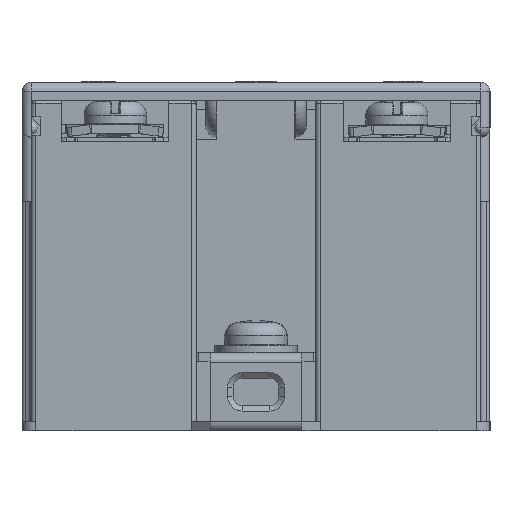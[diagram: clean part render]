
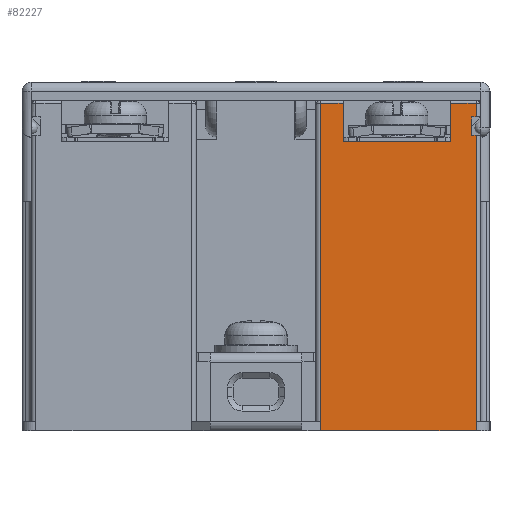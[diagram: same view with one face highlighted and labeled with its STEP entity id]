
A CAD part, left-side view. The second image highlights one B-rep face of the part: STEP entity #82227.
In plain terms, the highlighted free-form (B-spline) face has degree [1, 1] with [2, 2] control points.
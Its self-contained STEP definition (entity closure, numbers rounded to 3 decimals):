
#3347=CARTESIAN_POINT('',(-46.5,-7.,1.0));
#3348=VERTEX_POINT('',#3347);
#3582=CARTESIAN_POINT('',(-46.5,-24.,1.));
#3583=VERTEX_POINT('',#3582);
#5981=CARTESIAN_POINT('',(-46.5,-7.,0.));
#5982=VERTEX_POINT('',#5981);
#5989=CARTESIAN_POINT('',(-46.5,-7.,1.));
#5990=DIRECTION('',(0.0,0.0,-1.0));
#5991=VECTOR('',#5990,1.);
#5992=LINE('',#5989,#5991);
#5993=EDGE_CURVE('',#3348,#5982,#5992,.T.);
#8952=CARTESIAN_POINT('',(-46.5,-24.,0.));
#8953=VERTEX_POINT('',#8952);
#8954=CARTESIAN_POINT('',(-46.5,-24.,1.));
#8955=DIRECTION('',(0.0,0.0,-1.0));
#8956=VECTOR('',#8955,1.0);
#8957=LINE('',#8954,#8956);
#8958=EDGE_CURVE('',#3583,#8953,#8957,.T.);
#82020=CARTESIAN_POINT('',(-46.5,-7.,35.7));
#82021=VERTEX_POINT('',#82020);
#82082=CARTESIAN_POINT('',(-46.5,-7.,1.0));
#82083=DIRECTION('',(0.0,0.0,1.0));
#82084=VECTOR('',#82083,34.7);
#82085=LINE('',#82082,#82084);
#82086=EDGE_CURVE('',#3348,#82021,#82085,.T.);
#82121=CARTESIAN_POINT('',(-46.5,-9.5,35.7));
#82122=VERTEX_POINT('',#82121);
#82123=CARTESIAN_POINT('',(-46.5,-7.0,35.7));
#82124=DIRECTION('',(0.0,-1.0,0.0));
#82125=VECTOR('',#82124,2.5);
#82126=LINE('',#82123,#82125);
#82127=EDGE_CURVE('',#82021,#82122,#82126,.T.);
#82140=CARTESIAN_POINT('',(-46.5,-24.,35.7));
#82141=CARTESIAN_POINT('',(-46.5,-24.,0.0));
#82142=CARTESIAN_POINT('',(-46.5,-7.0,35.7));
#82143=CARTESIAN_POINT('',(-46.5,-7.0,0.0));
#82144=B_SPLINE_SURFACE_WITH_KNOTS('',1,1,((#82140,#82142),(#82141,#82143)),.UNSPECIFIED.,.F.,.F.,.U.,(2,2),(2,2),(0.0,35.7),(0.0,17.),.UNSPECIFIED.);
#82145=ORIENTED_EDGE('',*,*,#82086,.F.);
#82146=ORIENTED_EDGE('',*,*,#5993,.T.);
#82147=CARTESIAN_POINT('',(-46.5,-7.,0.));
#82148=DIRECTION('',(0.0,-1.0,0.0));
#82149=VECTOR('',#82148,17.);
#82150=LINE('',#82147,#82149);
#82151=EDGE_CURVE('',#5982,#8953,#82150,.T.);
#82152=ORIENTED_EDGE('',*,*,#82151,.T.);
#82153=ORIENTED_EDGE('',*,*,#8958,.F.);
#82154=CARTESIAN_POINT('',(-46.5,-24.,32.2));
#82155=VERTEX_POINT('',#82154);
#82156=CARTESIAN_POINT('',(-46.5,-24.,32.2));
#82157=DIRECTION('',(0.0,0.0,-1.0));
#82158=VECTOR('',#82157,31.2);
#82159=LINE('',#82156,#82158);
#82160=EDGE_CURVE('',#82155,#3583,#82159,.T.);
#82161=ORIENTED_EDGE('',*,*,#82160,.F.);
#82162=CARTESIAN_POINT('',(-46.5,-23.5,32.2));
#82163=VERTEX_POINT('',#82162);
#82164=CARTESIAN_POINT('',(-46.5,-24.,32.2));
#82165=DIRECTION('',(0.0,1.0,0.0));
#82166=VECTOR('',#82165,0.5);
#82167=LINE('',#82164,#82166);
#82168=EDGE_CURVE('',#82155,#82163,#82167,.T.);
#82169=ORIENTED_EDGE('',*,*,#82168,.T.);
#82170=CARTESIAN_POINT('',(-46.5,-23.5,34.2));
#82171=VERTEX_POINT('',#82170);
#82172=CARTESIAN_POINT('',(-46.5,-23.5,32.2));
#82173=DIRECTION('',(0.0,0.0,1.0));
#82174=VECTOR('',#82173,2.0);
#82175=LINE('',#82172,#82174);
#82176=EDGE_CURVE('',#82163,#82171,#82175,.T.);
#82177=ORIENTED_EDGE('',*,*,#82176,.T.);
#82178=CARTESIAN_POINT('',(-46.5,-24.,34.2));
#82179=VERTEX_POINT('',#82178);
#82180=CARTESIAN_POINT('',(-46.5,-23.5,34.2));
#82181=DIRECTION('',(0.0,-1.0,0.0));
#82182=VECTOR('',#82181,0.5);
#82183=LINE('',#82180,#82182);
#82184=EDGE_CURVE('',#82171,#82179,#82183,.T.);
#82185=ORIENTED_EDGE('',*,*,#82184,.T.);
#82186=CARTESIAN_POINT('',(-46.5,-24.,35.7));
#82187=VERTEX_POINT('',#82186);
#82188=CARTESIAN_POINT('',(-46.5,-24.,35.7));
#82189=DIRECTION('',(0.0,0.0,-1.0));
#82190=VECTOR('',#82189,1.5);
#82191=LINE('',#82188,#82190);
#82192=EDGE_CURVE('',#82187,#82179,#82191,.T.);
#82193=ORIENTED_EDGE('',*,*,#82192,.F.);
#82194=CARTESIAN_POINT('',(-46.5,-21.2,35.7));
#82195=VERTEX_POINT('',#82194);
#82196=CARTESIAN_POINT('',(-46.5,-21.2,35.7));
#82197=DIRECTION('',(0.0,-1.0,0.0));
#82198=VECTOR('',#82197,2.8);
#82199=LINE('',#82196,#82198);
#82200=EDGE_CURVE('',#82195,#82187,#82199,.T.);
#82201=ORIENTED_EDGE('',*,*,#82200,.F.);
#82202=CARTESIAN_POINT('',(-46.5,-21.2,31.5));
#82203=VERTEX_POINT('',#82202);
#82204=CARTESIAN_POINT('',(-46.5,-21.2,31.5));
#82205=DIRECTION('',(0.0,0.0,1.0));
#82206=VECTOR('',#82205,4.2);
#82207=LINE('',#82204,#82206);
#82208=EDGE_CURVE('',#82203,#82195,#82207,.T.);
#82209=ORIENTED_EDGE('',*,*,#82208,.F.);
#82210=CARTESIAN_POINT('',(-46.5,-9.5,31.5));
#82211=VERTEX_POINT('',#82210);
#82212=CARTESIAN_POINT('',(-46.5,-21.2,31.5));
#82213=DIRECTION('',(0.0,1.0,0.0));
#82214=VECTOR('',#82213,11.7);
#82215=LINE('',#82212,#82214);
#82216=EDGE_CURVE('',#82203,#82211,#82215,.T.);
#82217=ORIENTED_EDGE('',*,*,#82216,.T.);
#82218=CARTESIAN_POINT('',(-46.5,-9.5,35.7));
#82219=DIRECTION('',(0.0,0.0,-1.0));
#82220=VECTOR('',#82219,4.2);
#82221=LINE('',#82218,#82220);
#82222=EDGE_CURVE('',#82122,#82211,#82221,.T.);
#82223=ORIENTED_EDGE('',*,*,#82222,.F.);
#82224=ORIENTED_EDGE('',*,*,#82127,.F.);
#82225=EDGE_LOOP('',(#82145,#82146,#82152,#82153,#82161,#82169,#82177,#82185,#82193,#82201,#82209,#82217,#82223,#82224));
#82226=FACE_OUTER_BOUND('',#82225,.T.);
#82227=ADVANCED_FACE('',(#82226),#82144,.F.);
